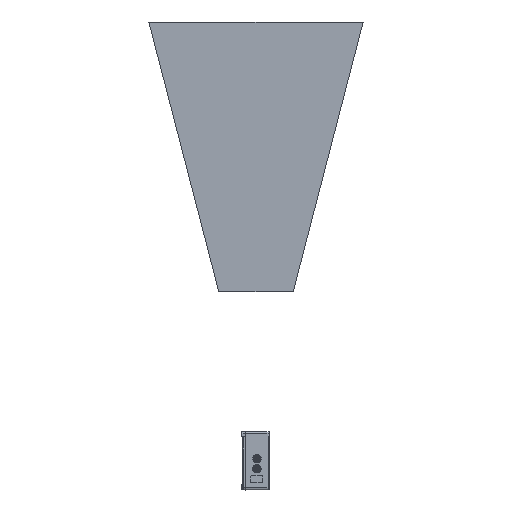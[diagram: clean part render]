
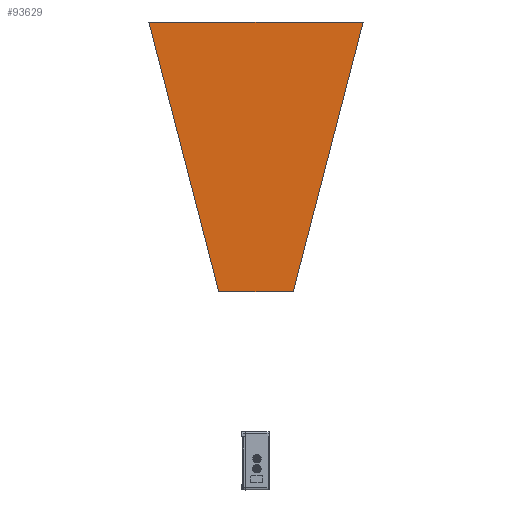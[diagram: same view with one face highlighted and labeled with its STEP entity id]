
A CAD part, left-side view. The second image highlights one B-rep face of the part: STEP entity #93629.
In plain terms, the highlighted planar face has unit normal (1, 0, 0).
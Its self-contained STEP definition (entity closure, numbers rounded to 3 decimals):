
#93590=DIRECTION('',(0.,-0.25,-0.968));
#93591=VECTOR('',#93590,599.083);
#93592=CARTESIAN_POINT('',(85.4,207.,942.5));
#93593=LINE('',#93592,#93591);
#93594=DIRECTION('',(0.,-1.,0.));
#93595=VECTOR('',#93594,160.);
#93596=CARTESIAN_POINT('',(85.4,57.,362.5));
#93597=LINE('',#93596,#93595);
#93598=DIRECTION('',(0.,-0.25,0.968));
#93599=VECTOR('',#93598,599.083);
#93600=CARTESIAN_POINT('',(85.4,-103.,362.5));
#93601=LINE('',#93600,#93599);
#93602=DIRECTION('',(0.,1.,0.));
#93603=VECTOR('',#93602,460.);
#93604=CARTESIAN_POINT('',(85.4,-253.,942.5));
#93605=LINE('',#93604,#93603);
#93606=CARTESIAN_POINT('',(85.4,57.,362.5));
#93607=CARTESIAN_POINT('',(85.4,207.,942.5));
#93608=VERTEX_POINT('',#93606);
#93609=VERTEX_POINT('',#93607);
#93610=CARTESIAN_POINT('',(85.4,-253.,942.5));
#93611=VERTEX_POINT('',#93610);
#93612=CARTESIAN_POINT('',(85.4,-103.,362.5));
#93613=VERTEX_POINT('',#93612);
#93614=CARTESIAN_POINT('',(85.4,0.,0.));
#93615=DIRECTION('',(1.,0.,0.));
#93616=DIRECTION('',(0.,-1.,0.));
#93617=AXIS2_PLACEMENT_3D('',#93614,#93615,#93616);
#93618=PLANE('',#93617);
#93620=ORIENTED_EDGE('',*,*,#93619,.T.);
#93622=ORIENTED_EDGE('',*,*,#93621,.T.);
#93624=ORIENTED_EDGE('',*,*,#93623,.T.);
#93626=ORIENTED_EDGE('',*,*,#93625,.T.);
#93627=EDGE_LOOP('',(#93620,#93622,#93624,#93626));
#93628=FACE_OUTER_BOUND('',#93627,.F.);
#93629=ADVANCED_FACE('',(#93628),#93618,.T.);
#93619=EDGE_CURVE('',#93609,#93608,#93593,.T.);
#93621=EDGE_CURVE('',#93608,#93613,#93597,.T.);
#93623=EDGE_CURVE('',#93613,#93611,#93601,.T.);
#93625=EDGE_CURVE('',#93611,#93609,#93605,.T.);
